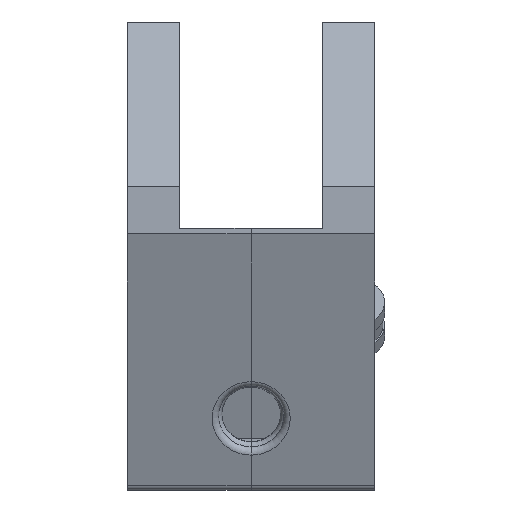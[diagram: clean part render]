
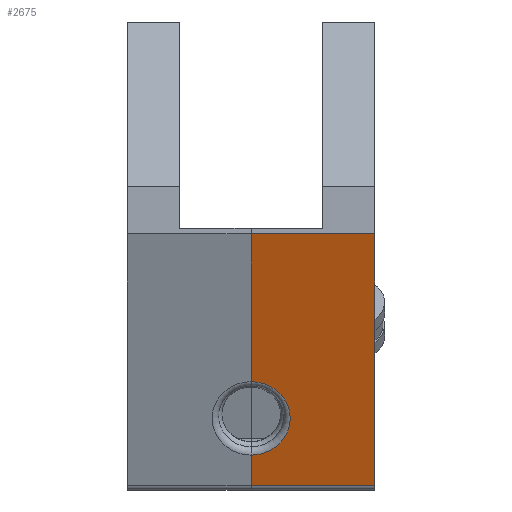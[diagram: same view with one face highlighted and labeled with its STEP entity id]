
A CAD part, left-side view. The second image highlights one B-rep face of the part: STEP entity #2675.
In plain terms, the highlighted planar face has unit normal (-0.94, 0, -0.342).
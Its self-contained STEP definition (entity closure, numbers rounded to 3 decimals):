
#73=LINE('',#3910,#377);
#74=LINE('',#3920,#378);
#106=LINE('',#4015,#410);
#107=LINE('',#4018,#411);
#108=LINE('',#4019,#412);
#377=VECTOR('',#3104,10.);
#378=VECTOR('',#3117,10.);
#410=VECTOR('',#3201,10.);
#411=VECTOR('',#3204,10.);
#412=VECTOR('',#3205,10.);
#681=PLANE('',#2871);
#799=FACE_OUTER_BOUND('',#954,.T.);
#954=EDGE_LOOP('',(#1940,#1941,#1942,#1943,#1944,#1945));
#1106=CIRCLE('',#2842,6.);
#1205=VERTEX_POINT('',#3907);
#1206=VERTEX_POINT('',#3909);
#1208=VERTEX_POINT('',#3915);
#1209=VERTEX_POINT('',#3919);
#1246=VERTEX_POINT('',#4013);
#1247=VERTEX_POINT('',#4017);
#1470=EDGE_CURVE('',#1205,#1206,#73,.T.);
#1473=EDGE_CURVE('',#1206,#1208,#1106,.T.);
#1475=EDGE_CURVE('',#1208,#1209,#74,.T.);
#1523=EDGE_CURVE('',#1246,#1205,#106,.T.);
#1524=EDGE_CURVE('',#1247,#1246,#107,.T.);
#1525=EDGE_CURVE('',#1247,#1209,#108,.T.);
#1940=ORIENTED_EDGE('',*,*,#1473,.F.);
#1941=ORIENTED_EDGE('',*,*,#1470,.F.);
#1942=ORIENTED_EDGE('',*,*,#1523,.F.);
#1943=ORIENTED_EDGE('',*,*,#1524,.F.);
#1944=ORIENTED_EDGE('',*,*,#1525,.T.);
#1945=ORIENTED_EDGE('',*,*,#1475,.F.);
#2675=ADVANCED_FACE('',(#799),#681,.T.);
#2842=AXIS2_PLACEMENT_3D('',#3916,#3111,#3112);
#2871=AXIS2_PLACEMENT_3D('',#4016,#3202,#3203);
#3104=DIRECTION('',(-0.342,0.,0.94));
#3111=DIRECTION('center_axis',(-0.94,0.,-0.342));
#3112=DIRECTION('ref_axis',(0.,-1.,0.));
#3117=DIRECTION('',(-0.342,0.,0.94));
#3201=DIRECTION('',(0.,1.,0.));
#3202=DIRECTION('center_axis',(-0.94,0.,-0.342));
#3203=DIRECTION('ref_axis',(-0.342,0.,0.94));
#3204=DIRECTION('',(0.342,0.,-0.94));
#3205=DIRECTION('',(0.,1.,0.));
#3907=CARTESIAN_POINT('',(-14.793,19.,-42.333));
#3909=CARTESIAN_POINT('',(-16.503,19.,-37.634));
#3910=CARTESIAN_POINT('',(-15.135,19.,-41.393));
#3915=CARTESIAN_POINT('',(-20.608,19.,-26.358));
#3916=CARTESIAN_POINT('Origin',(-18.555,19.,-31.996));
#3919=CARTESIAN_POINT('',(-28.87,19.,-3.657));
#3920=CARTESIAN_POINT('',(-15.135,19.,-41.393));
#4013=CARTESIAN_POINT('',(-14.793,0.,-42.333));
#4015=CARTESIAN_POINT('',(-14.793,0.,-42.333));
#4016=CARTESIAN_POINT('Origin',(-14.451,0.,-43.272));
#4017=CARTESIAN_POINT('',(-28.87,0.,-3.657));
#4018=CARTESIAN_POINT('',(-15.135,0.,-41.393));
#4019=CARTESIAN_POINT('',(-28.87,0.,-3.657));
